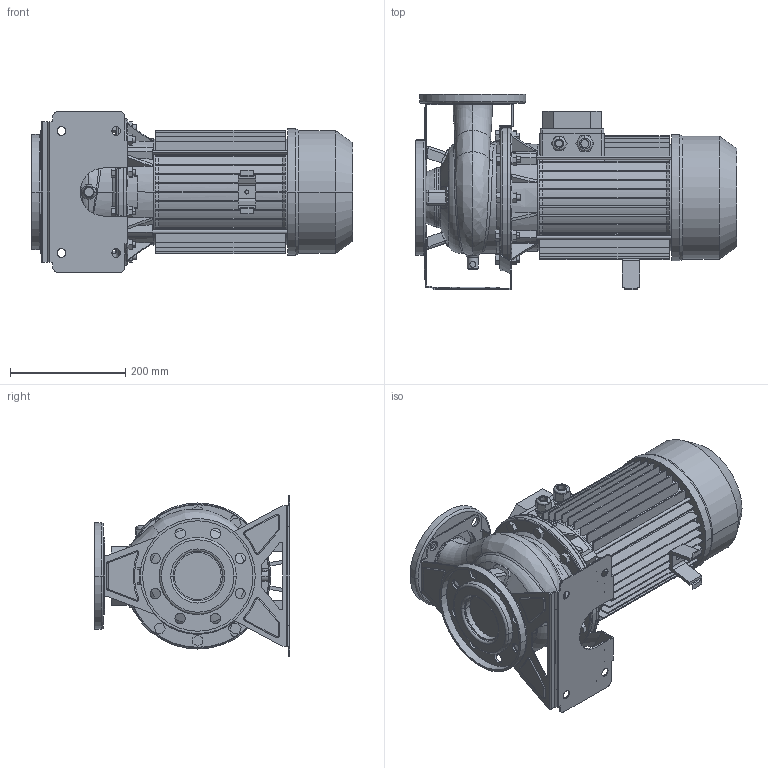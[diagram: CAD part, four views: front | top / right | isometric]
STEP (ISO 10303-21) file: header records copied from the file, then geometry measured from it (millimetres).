
FILE_DESCRIPTION((''),'2;1');
FILE_NAME('3M_65-125_7_5_IE3_ASM','2014-12-12T',('Rosa'),('"Ebara Pumps Europe +39.444.706811"'),'PRO/ENGINEER BY PARAMETRIC TECHNOLOGY CORPORATION, 2009360','PRO/ENGINEER BY PARAMETRIC TECHNOLOGY CORPORATION, 2009360','');
FILE_SCHEMA(('AUTOMOTIVE_DESIGN { 1 0 10303 214 1 1 1 1 }'));
Length unit declared in the file: millimetre
Products named in the file (11): CORPO_65-125_AF0; ASP_65-125; FLANGIA_DIN_80_8_FORI; MAND_65-125; FLANGIA_DIN_65; BASE_3M_65-125; CORPO_SALDATO_65-125_ASM; SUPPORTO_3M_190_112; MEC_112X200_IE3; SOSTEGNO_72008; 3M_65-125_7_5_IE3_ASM
Assembly tree (10 placements, depth 3):
  3M_65-125_7_5_IE3_ASM
    CORPO_SALDATO_65-125_ASM
      CORPO_65-125_AF0
      ASP_65-125
      FLANGIA_DIN_80_8_FORI
      MAND_65-125
      FLANGIA_DIN_65
      BASE_3M_65-125
    SUPPORTO_3M_190_112
    MEC_112X200_IE3
    SOSTEGNO_72008
Bounding box: 559 x 340 x 280 mm (x, y, z)
Volume: 11827233.3 mm3; surface area: 1512973.3 mm2
Topology: 12 solids, 12 shells, 1147 faces, 2925 edges, 1862 vertices
Faces by surface type: plane 632, cylinder 308, cone 98, torus 62, bspline 33, sphere 14
Entity records: 51828 total; most frequent: CARTESIAN_POINT 11710, DIRECTION 5944, ORIENTED_EDGE 5850, PRESENTATION_STYLE_ASSIGNMENT 2937, STYLED_ITEM 2937, CURVE_STYLE 2925, EDGE_CURVE 2925, AXIS2_PLACEMENT_3D 2151
